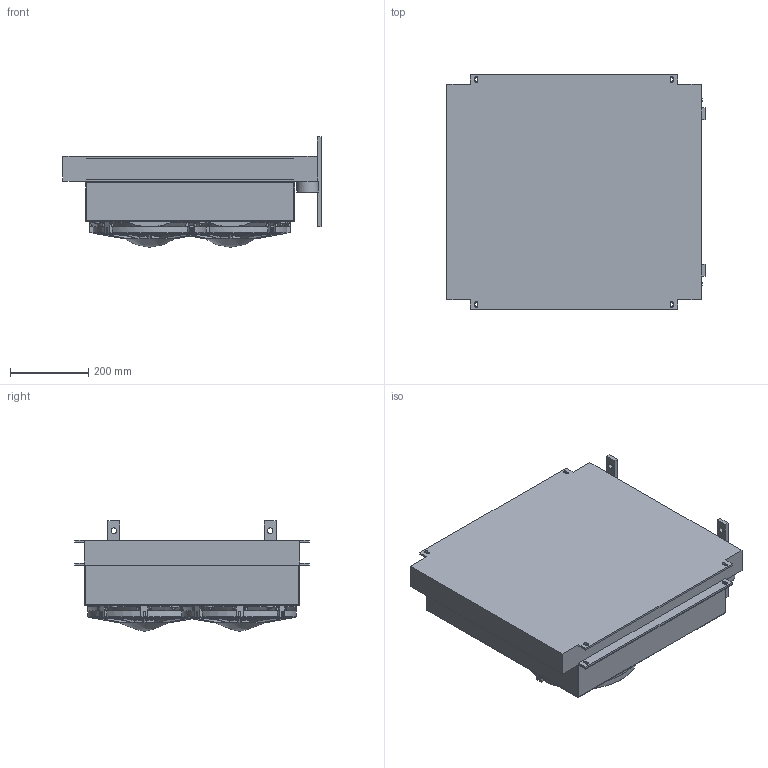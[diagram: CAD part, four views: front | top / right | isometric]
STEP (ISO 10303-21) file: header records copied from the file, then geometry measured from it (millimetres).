
FILE_DESCRIPTION (( 'STEP AP214' ), '1' );
FILE_NAME ('WHE 2050 12V-24V.STEP', '2016-01-29T08:05:52', ( '' ), ( '' ), 'SwSTEP 2.0', 'SolidWorks 2016', '' );
FILE_SCHEMA (( 'AUTOMOTIVE_DESIGN' ));
Length unit declared in the file: millimetre
Products named in the file (4): WHE 2050 12V-24V; 11''''''''ince; WHE2050 12V-24V DALLUMBAZ; WHE2050 RADYATOR
Assembly tree (4 placements, depth 2):
  WHE 2050 12V-24V
    WHE2050 RADYATOR
    WHE2050 12V-24V DALLUMBAZ
    11''''''''ince  x2
Bounding box: 660 x 600 x 281.72 mm (x, y, z)
Volume: 24344858.1 mm3; surface area: 2226724.6 mm2
Topology: 4 solids, 4 shells, 1969 faces, 6488 edges, 4468 vertices
Faces by surface type: cylinder 850, plane 639, torus 384, cone 90, bspline 6
Entity records: 66385 total; most frequent: CARTESIAN_POINT 25168, ORIENTED_EDGE 6994, DIRECTION 4837, EDGE_CURVE 3497, VERTEX_POINT 2401, AXIS2_PLACEMENT_3D 1752, B_SPLINE_CURVE_WITH_KNOTS 1499, EDGE_LOOP 1340
